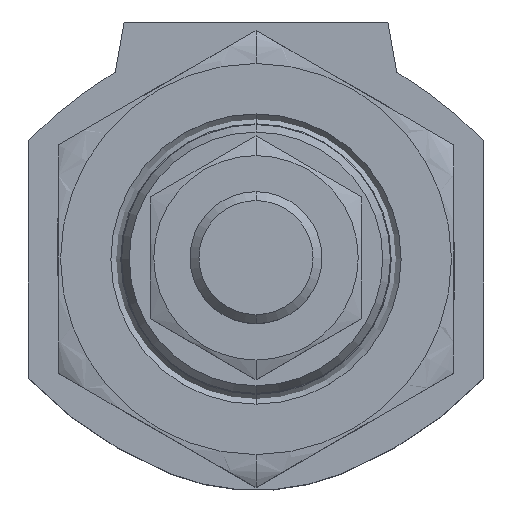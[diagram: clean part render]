
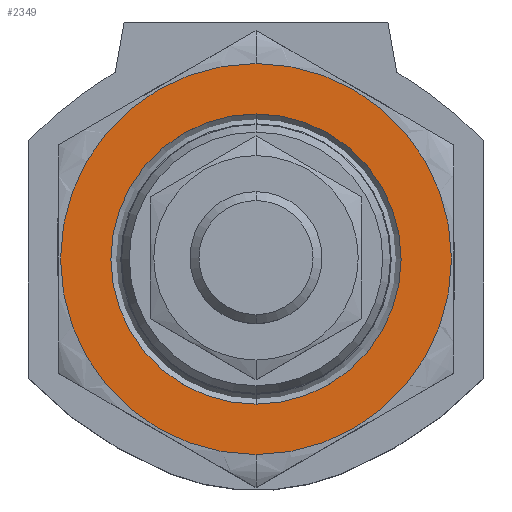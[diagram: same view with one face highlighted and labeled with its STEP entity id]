
A CAD part, top view. The second image highlights one B-rep face of the part: STEP entity #2349.
In plain terms, the highlighted planar face has unit normal (0, 0, 1).
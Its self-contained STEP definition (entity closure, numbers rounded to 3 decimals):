
#2044=CARTESIAN_POINT('',(0.,0.,0.));
#2045=DIRECTION('',(0.,0.,-1.));
#2046=DIRECTION('',(0.,1.,0.));
#2047=AXIS2_PLACEMENT_3D('',#2044,#2045,#2046);
#2049=CARTESIAN_POINT('',(0.,0.,0.));
#2050=DIRECTION('',(0.,0.,-1.));
#2051=DIRECTION('',(0.,-1.,0.));
#2052=AXIS2_PLACEMENT_3D('',#2049,#2050,#2051);
#2054=CARTESIAN_POINT('',(0.,0.,0.));
#2055=DIRECTION('',(0.,0.,-1.));
#2056=DIRECTION('',(0.,1.,0.));
#2057=AXIS2_PLACEMENT_3D('',#2054,#2055,#2056);
#2059=CARTESIAN_POINT('',(0.,0.,0.));
#2060=DIRECTION('',(0.,0.,-1.));
#2061=DIRECTION('',(0.,-1.,0.));
#2062=AXIS2_PLACEMENT_3D('',#2059,#2060,#2061);
#2302=CARTESIAN_POINT('',(0.,11.,0.));
#2303=CARTESIAN_POINT('',(0.,-11.,0.));
#2304=VERTEX_POINT('',#2302);
#2305=VERTEX_POINT('',#2303);
#2306=CARTESIAN_POINT('',(0.,14.821,0.));
#2307=CARTESIAN_POINT('',(0.,-14.821,0.));
#2308=VERTEX_POINT('',#2306);
#2309=VERTEX_POINT('',#2307);
#2332=CARTESIAN_POINT('',(0.,0.,0.));
#2333=DIRECTION('',(0.,0.,-1.));
#2334=DIRECTION('',(-1.,0.,0.));
#2335=AXIS2_PLACEMENT_3D('',#2332,#2333,#2334);
#2336=PLANE('',#2335);
#2338=ORIENTED_EDGE('',*,*,#2337,.T.);
#2340=ORIENTED_EDGE('',*,*,#2339,.T.);
#2341=EDGE_LOOP('',(#2338,#2340));
#2342=FACE_OUTER_BOUND('',#2341,.F.);
#2344=ORIENTED_EDGE('',*,*,#2343,.F.);
#2346=ORIENTED_EDGE('',*,*,#2345,.F.);
#2347=EDGE_LOOP('',(#2344,#2346));
#2348=FACE_BOUND('',#2347,.F.);
#2349=ADVANCED_FACE('',(#2342,#2348),#2336,.F.);
#2048=CIRCLE('',#2047,11.);
#2053=CIRCLE('',#2052,11.);
#2058=CIRCLE('',#2057,14.821);
#2063=CIRCLE('',#2062,14.821);
#2337=EDGE_CURVE('',#2308,#2309,#2058,.T.);
#2339=EDGE_CURVE('',#2309,#2308,#2063,.T.);
#2343=EDGE_CURVE('',#2304,#2305,#2048,.T.);
#2345=EDGE_CURVE('',#2305,#2304,#2053,.T.);
